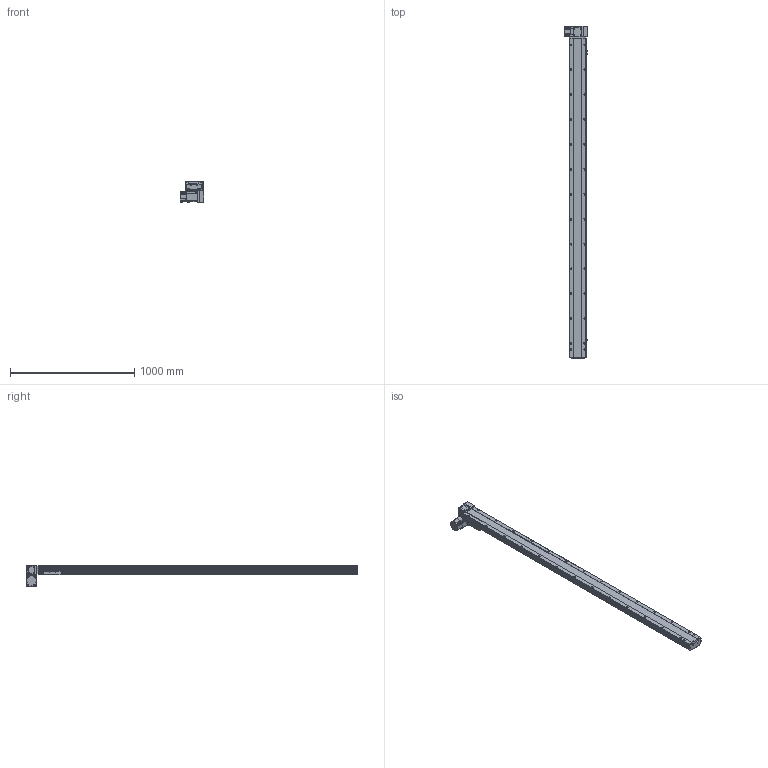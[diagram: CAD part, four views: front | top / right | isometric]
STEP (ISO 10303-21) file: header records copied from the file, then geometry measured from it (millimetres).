
FILE_DESCRIPTION (( 'STEP AP203' ), '1' );
FILE_NAME ('46.STEP', '2020-10-27T11:51:45', ( '' ), ( '' ), 'SwSTEP 2.0', 'SolidWorks 2016', '' );
FILE_SCHEMA (( 'CONFIG_CONTROL_DESIGN' ));
Length unit declared in the file: millimetre
Products named in the file (12): BTB14-RU-菁釱; BTB14-RU-T75; BTB14-RU-01; BTB14-RU-04; FS-07-T75; BTB14-RU-HZ; FS-33-T75; FS-08-T75; BTB14-RU-23; BTB14-RU-06; 46; BTB14-RU-24
Assembly tree (14 placements, depth 2):
  46
    BTB14-RU-菁釱
    BTB14-RU-01
    BTB14-RU-04  x3
    BTB14-RU-06
    BTB14-RU-23  x2
    BTB14-RU-24
    BTB14-RU-HZ
    FS-07-T75
    FS-08-T75
    FS-33-T75
    BTB14-RU-T75
Bounding box: 191.8 x 2668 x 175.5 mm (x, y, z)
Volume: 11951867 mm3; surface area: 2413191.3 mm2
Topology: 24 solids, 24 shells, 1870 faces, 4923 edges, 3142 vertices
Faces by surface type: plane 1033, cylinder 546, cone 152, bspline 127, torus 12
Entity records: 55228 total; most frequent: CARTESIAN_POINT 16797, ORIENTED_EDGE 7712, DIRECTION 7514, EDGE_CURVE 3856, LINE 2564, VECTOR 2564, VERTEX_POINT 2520, AXIS2_PLACEMENT_3D 2475
